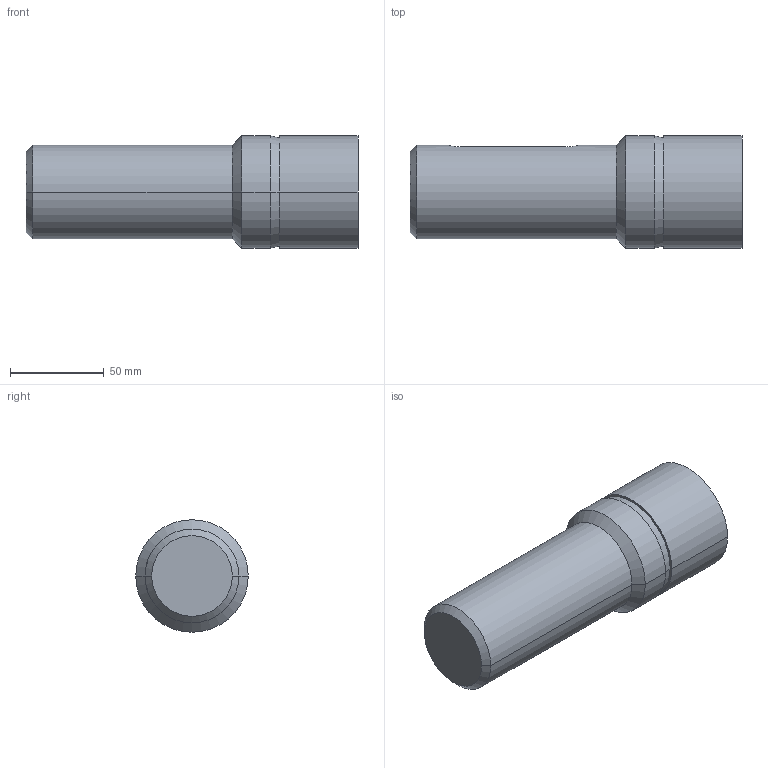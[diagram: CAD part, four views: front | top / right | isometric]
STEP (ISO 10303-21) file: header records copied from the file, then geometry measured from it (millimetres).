
FILE_DESCRIPTION (( 'STEP AP203' ), '1' );
FILE_NAME ('S2-60.STEP', '2002-08-16T10:48:54', ( '.' ), ( '.' ), 'SwSTEP 2.0', 'SolidWorks 2001340', '' );
FILE_SCHEMA (( 'CONFIG_CONTROL_DESIGN' ));
Length unit declared in the file: millimetre
Products named in the file (1): S2-60
Bounding box: 177 x 60 x 60 mm (x, y, z)
Volume: 396861.6 mm3; surface area: 35597.9 mm2
Topology: 1 solids, 1 shells, 20 faces, 43 edges, 26 vertices
Faces by surface type: cylinder 8, plane 6, cone 6
Entity records: 696 total; most frequent: CARTESIAN_POINT 176, DIRECTION 99, ORIENTED_EDGE 86, EDGE_CURVE 43, AXIS2_PLACEMENT_3D 39, VERTEX_POINT 26, EDGE_LOOP 21, LINE 21
